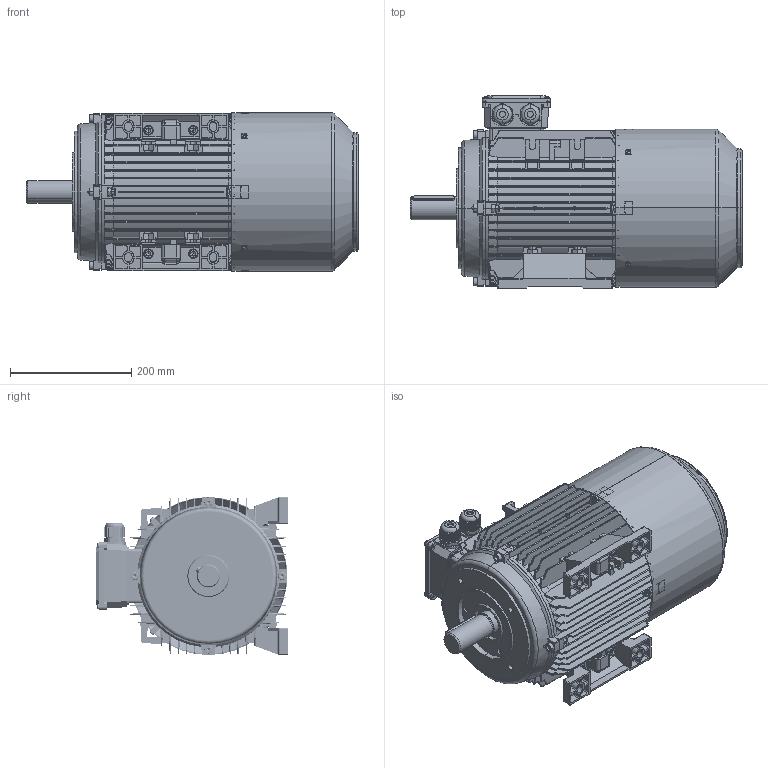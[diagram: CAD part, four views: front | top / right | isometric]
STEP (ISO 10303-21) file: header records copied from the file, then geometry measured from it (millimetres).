
FILE_DESCRIPTION (( 'STEP AP203' ), '1' );
FILE_NAME ('TB132S B34（风罩不带手柄孔）.STEP', '2021-10-26T02:16:46', ( '' ), ( '' ), 'SwSTEP 2.0', 'SolidWorks 2014', '' );
FILE_SCHEMA (( 'CONFIG_CONTROL_DESIGN' ));
Length unit declared in the file: millimetre
Products named in the file (17): TB132S B34（风罩不带手柄孔）; 112-132堤盄蹟杶; MS132諉盄碟釱; Hexagon socket head cap screws GB_GB_FASTENER_SCREWS_HSHCS M10X30-N; 112怢宒瑞珔; T132S菁褐; Hexagon nuts grade C GB_GB_FASTENER_NUT_SNC1 M10-N; TB132綴裔; MS132諉盄碟裔; Hexagon socket head cap screws GB_GB_FASTENER_SCREWS_HSHCS M8X35-N; Plain parallel keys_GB_CONNECTING_PIECE_KEYS_CSK 10X70; TB132S蛌粣; TA132B14楊擘1; Cross recessed thread forming screws GB_GB_CROSS_SCREWS_TYPE138 M5X12-N; TB132瑞欶(祥湍忒梟謂); T132S儂褲; Hexagon nuts grade C GB_GB_FASTENER_NUT_SNC1 M8-N
Assembly tree (45 placements, depth 2):
  TB132S B34（风罩不带手柄孔）
    T132S儂褲
    T132S菁褐  x2
    TB132S蛌粣
    112-132堤盄蹟杶  x2
    TB132綴裔
    Cross recessed thread forming screws GB_GB_CROSS_SCREWS_TYPE138 M5X12-N  x8
    Hexagon socket head cap screws GB_GB_FASTENER_SCREWS_HSHCS M10X30-N  x4
    Hexagon socket head cap screws GB_GB_FASTENER_SCREWS_HSHCS M8X35-N  x8
    Hexagon nuts grade C GB_GB_FASTENER_NUT_SNC1 M8-N  x8
    Hexagon nuts grade C GB_GB_FASTENER_NUT_SNC1 M10-N  x4
    TA132B14楊擘1
    MS132諉盄碟釱
    MS132諉盄碟裔
    TB132瑞欶(祥湍忒梟謂)
    112怢宒瑞珔
    Plain parallel keys_GB_CONNECTING_PIECE_KEYS_CSK 10X70
Bounding box: 548 x 318 x 261.1 mm (x, y, z)
Volume: 3766962.4 mm3; surface area: 1898996 mm2
Topology: 45 solids, 45 shells, 5808 faces, 15793 edges, 10014 vertices
Faces by surface type: plane 3085, cylinder 1417, bspline 701, cone 376, torus 205, sphere 24
Entity records: 182976 total; most frequent: CARTESIAN_POINT 65786, ORIENTED_EDGE 26114, DIRECTION 20830, EDGE_CURVE 13057, VERTEX_POINT 8376, LINE 7206, VECTOR 7206, AXIS2_PLACEMENT_3D 6812
